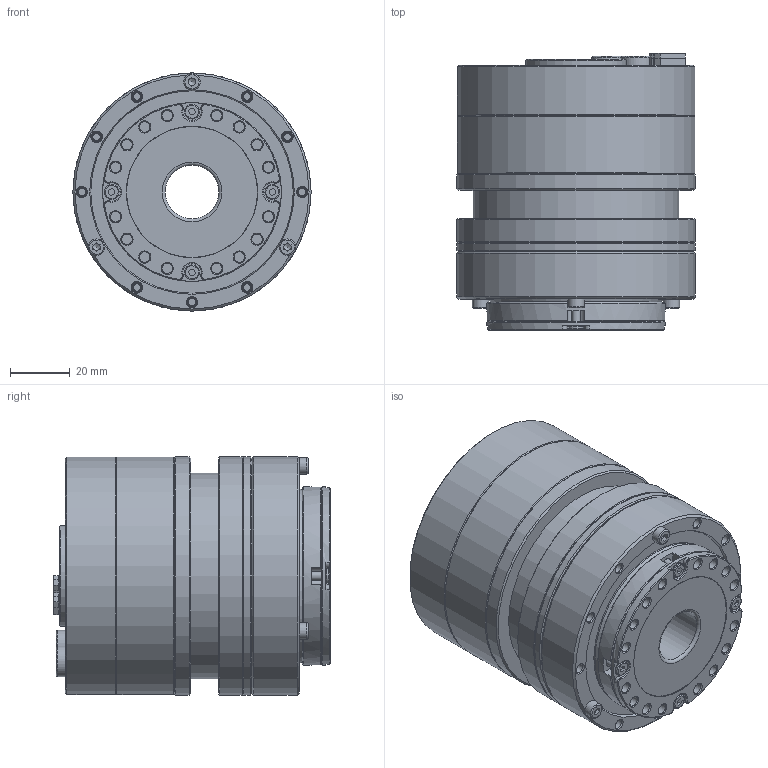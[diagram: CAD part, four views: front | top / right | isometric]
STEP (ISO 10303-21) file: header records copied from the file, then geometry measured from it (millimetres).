
FILE_DESCRIPTION (( 'STEP AP214' ), '1' );
FILE_NAME ('CRA-RI60-80-PRO-XX-B-2E-EC.STEP', '2024-08-30T08:33:01', ( '' ), ( '' ), 'SwSTEP 2.0', 'SolidWorks 2021', '' );
FILE_SCHEMA (( 'AUTOMOTIVE_DESIGN' ));
Length unit declared in the file: millimetre
Products named in the file (1): CRA-RI60-80-PRO-XX-B-2E-EC
Bounding box: 80 x 93 x 80 mm (x, y, z)
Surface area: 64243.6 mm2 (no closed solid volume)
Topology: 0 solids, 70 shells, 536 faces, 1644 edges, 1158 vertices
Faces by surface type: plane 255, cylinder 143, cone 116, torus 22
Full cylindrical faces by diameter (mm): 1.6 x4, 2 x4, 2.1 x1, 2.5 x12, 2.9 x4, 3.5 x29, 3.8 x4, 4.2 x4, 5 x4, 5.5 x3, 10.2 x2, 18 x1, 20 x1, 25.2 x1, 34 x1, 44 x1, 59 x1, 60 x2, 68 x2, 69 x1, 77.2 x1, 80 x6
Entity records: 24457 total; most frequent: CARTESIAN_POINT 4627, DIRECTION 2966, ORIENTED_EDGE 2172, EDGE_CURVE 1439, VERTEX_POINT 1132, AXIS2_PLACEMENT_3D 1088, EDGE_LOOP 874, LINE 790
